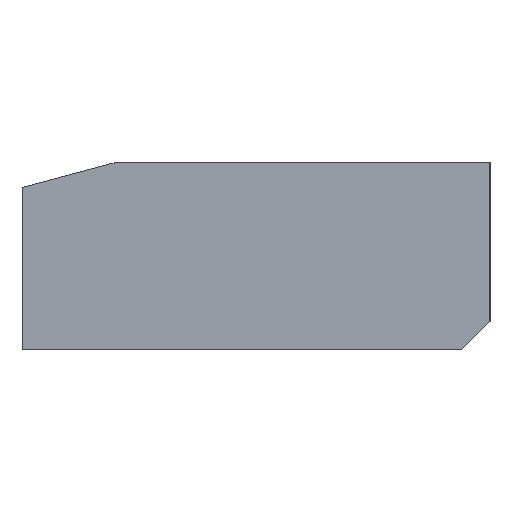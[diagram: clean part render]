
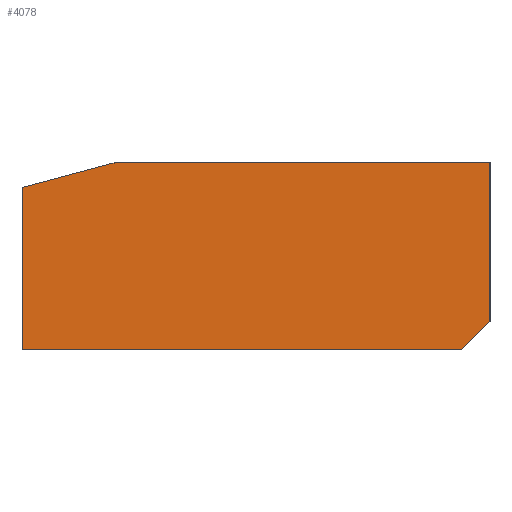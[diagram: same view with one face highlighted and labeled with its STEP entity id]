
A CAD part, left-side view. The second image highlights one B-rep face of the part: STEP entity #4078.
In plain terms, the highlighted planar face has unit normal (-1, 0, 0).
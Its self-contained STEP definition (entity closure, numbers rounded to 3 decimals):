
#8 = VERTEX_POINT ( 'NONE', #845 ) ;
#25 = PLANE ( 'NONE',  #826 ) ;
#138 = ORIENTED_EDGE ( 'NONE', *, *, #4260, .T. ) ;
#344 = EDGE_LOOP ( 'NONE', ( #4159, #3156, #2216, #1130, #138, #4052, #3040 ) ) ;
#409 = CARTESIAN_POINT ( 'NONE',  ( 0., 26.228, 20. ) ) ;
#599 = CARTESIAN_POINT ( 'NONE',  ( 0., 40.636, 19.83 ) ) ;
#611 = CARTESIAN_POINT ( 'NONE',  ( 0., 0., 3. ) ) ;
#623 = CARTESIAN_POINT ( 'NONE',  ( 0., 18.667, 0. ) ) ;
#826 = AXIS2_PLACEMENT_3D ( 'NONE', #1549, #4184, #1973 ) ;
#845 = CARTESIAN_POINT ( 'NONE',  ( 0., 0., 20. ) ) ;
#965 = CARTESIAN_POINT ( 'NONE',  ( 0., 39.342, 20. ) ) ;
#1009 = CARTESIAN_POINT ( 'NONE',  ( 0., 50., 17.321 ) ) ;
#1026 = CARTESIAN_POINT ( 'NONE',  ( 0., 1., 2. ) ) ;
#1027 = CARTESIAN_POINT ( 'NONE',  ( 0., 0., 3. ) ) ;
#1083 = CARTESIAN_POINT ( 'NONE',  ( 0., 0., 14.333 ) ) ;
#1106 = CARTESIAN_POINT ( 'NONE',  ( 0., 40.636, 19.83 ) ) ;
#1130 = ORIENTED_EDGE ( 'NONE', *, *, #3307, .F. ) ;
#1163 = CARTESIAN_POINT ( 'NONE',  ( 0., 0., 20. ) ) ;
#1255 = CARTESIAN_POINT ( 'NONE',  ( 0., 0., 3. ) ) ;
#1289 = CARTESIAN_POINT ( 'NONE',  ( 0., 3., 0. ) ) ;
#1347 = CARTESIAN_POINT ( 'NONE',  ( 0., 39.342, 20. ) ) ;
#1486 = CARTESIAN_POINT ( 'NONE',  ( 0., 46.879, 18.157 ) ) ;
#1494 = CARTESIAN_POINT ( 'NONE',  ( 0., 50., 0. ) ) ;
#1549 = CARTESIAN_POINT ( 'NONE',  ( 0., 50., 0. ) ) ;
#1597 = VERTEX_POINT ( 'NONE', #1494 ) ;
#1623 = B_SPLINE_CURVE_WITH_KNOTS ( 'NONE', 3,
 ( #965, #4016, #2921, #599 ),
 .UNSPECIFIED., .F., .F.,
 ( 4, 4 ),
 ( 0., 1. ),
 .UNSPECIFIED. ) ;
#1666 = B_SPLINE_CURVE_WITH_KNOTS ( 'NONE', 3,
 ( #1255, #1986, #1083, #1163 ),
 .UNSPECIFIED., .F., .F.,
 ( 4, 4 ),
 ( 0., 1. ),
 .UNSPECIFIED. ) ;
#1844 = CARTESIAN_POINT ( 'NONE',  ( 0., 34.333, 0. ) ) ;
#1973 = DIRECTION ( 'NONE',  ( 0., 0., 1. ) ) ;
#1986 = CARTESIAN_POINT ( 'NONE',  ( 0., 0., 8.667 ) ) ;
#2005 = CARTESIAN_POINT ( 'NONE',  ( 0., 39.342, 20. ) ) ;
#2146 = CARTESIAN_POINT ( 'NONE',  ( 0., 13.114, 20. ) ) ;
#2209 = VERTEX_POINT ( 'NONE', #1027 ) ;
#2216 = ORIENTED_EDGE ( 'NONE', *, *, #3284, .T. ) ;
#2235 = CARTESIAN_POINT ( 'NONE',  ( 0., 2., 1. ) ) ;
#2261 = CARTESIAN_POINT ( 'NONE',  ( 0., 50., 5.774 ) ) ;
#2263 = VERTEX_POINT ( 'NONE', #1289 ) ;
#2353 = CARTESIAN_POINT ( 'NONE',  ( 0., 0., 20. ) ) ;
#2431 = VERTEX_POINT ( 'NONE', #1009 ) ;
#2488 = VERTEX_POINT ( 'NONE', #1106 ) ;
#2693 = B_SPLINE_CURVE_WITH_KNOTS ( 'NONE', 3,
 ( #3746, #3693, #2261, #3173 ),
 .UNSPECIFIED., .F., .F.,
 ( 4, 4 ),
 ( 0., 1. ),
 .UNSPECIFIED. ) ;
#2921 = CARTESIAN_POINT ( 'NONE',  ( 0., 40.212, 19.943 ) ) ;
#3040 = ORIENTED_EDGE ( 'NONE', *, *, #3783, .T. ) ;
#3156 = ORIENTED_EDGE ( 'NONE', *, *, #4580, .F. ) ;
#3173 = CARTESIAN_POINT ( 'NONE',  ( 0., 50., 0. ) ) ;
#3284 = EDGE_CURVE ( 'NONE', #2209, #8, #1666, .T. ) ;
#3296 = FACE_OUTER_BOUND ( 'NONE', #344, .T. ) ;
#3307 = EDGE_CURVE ( 'NONE', #4235, #8, #3479, .T. ) ;
#3329 = CARTESIAN_POINT ( 'NONE',  ( 0., 3., 0. ) ) ;
#3370 = CARTESIAN_POINT ( 'NONE',  ( 0., 40.636, 19.83 ) ) ;
#3479 = B_SPLINE_CURVE_WITH_KNOTS ( 'NONE', 3,
 ( #2005, #409, #2146, #2353 ),
 .UNSPECIFIED., .F., .F.,
 ( 4, 4 ),
 ( 0., 1. ),
 .UNSPECIFIED. ) ;
#3693 = CARTESIAN_POINT ( 'NONE',  ( 0., 50., 11.547 ) ) ;
#3746 = CARTESIAN_POINT ( 'NONE',  ( 0., 50., 17.321 ) ) ;
#3783 = EDGE_CURVE ( 'NONE', #2431, #1597, #2693, .T. ) ;
#4016 = CARTESIAN_POINT ( 'NONE',  ( 0., 39.781, 20. ) ) ;
#4052 = ORIENTED_EDGE ( 'NONE', *, *, #4422, .T. ) ;
#4078 = ADVANCED_FACE ( 'NONE', ( #3296 ), #25, .T. ) ;
#4090 = B_SPLINE_CURVE_WITH_KNOTS ( 'NONE', 3,
 ( #611, #1026, #2235, #4740 ),
 .UNSPECIFIED., .F., .F.,
 ( 4, 4 ),
 ( 0., 1. ),
 .UNSPECIFIED. ) ;
#4118 = CARTESIAN_POINT ( 'NONE',  ( 0., 50., 17.321 ) ) ;
#4138 = B_SPLINE_CURVE_WITH_KNOTS ( 'NONE', 3,
 ( #3370, #4439, #1486, #4118 ),
 .UNSPECIFIED., .F., .F.,
 ( 4, 4 ),
 ( 0., 1. ),
 .UNSPECIFIED. ) ;
#4159 = ORIENTED_EDGE ( 'NONE', *, *, #4590, .T. ) ;
#4184 = DIRECTION ( 'NONE',  ( -1., 0., 0. ) ) ;
#4235 = VERTEX_POINT ( 'NONE', #1347 ) ;
#4260 = EDGE_CURVE ( 'NONE', #4235, #2488, #1623, .T. ) ;
#4408 = CARTESIAN_POINT ( 'NONE',  ( 0., 50., 0. ) ) ;
#4422 = EDGE_CURVE ( 'NONE', #2488, #2431, #4138, .T. ) ;
#4427 = B_SPLINE_CURVE_WITH_KNOTS ( 'NONE', 3,
 ( #4408, #1844, #623, #3329 ),
 .UNSPECIFIED., .F., .F.,
 ( 4, 4 ),
 ( 0., 1. ),
 .UNSPECIFIED. ) ;
#4439 = CARTESIAN_POINT ( 'NONE',  ( 0., 43.757, 18.993 ) ) ;
#4580 = EDGE_CURVE ( 'NONE', #2209, #2263, #4090, .T. ) ;
#4590 = EDGE_CURVE ( 'NONE', #1597, #2263, #4427, .T. ) ;
#4740 = CARTESIAN_POINT ( 'NONE',  ( 0., 3., 0. ) ) ;
